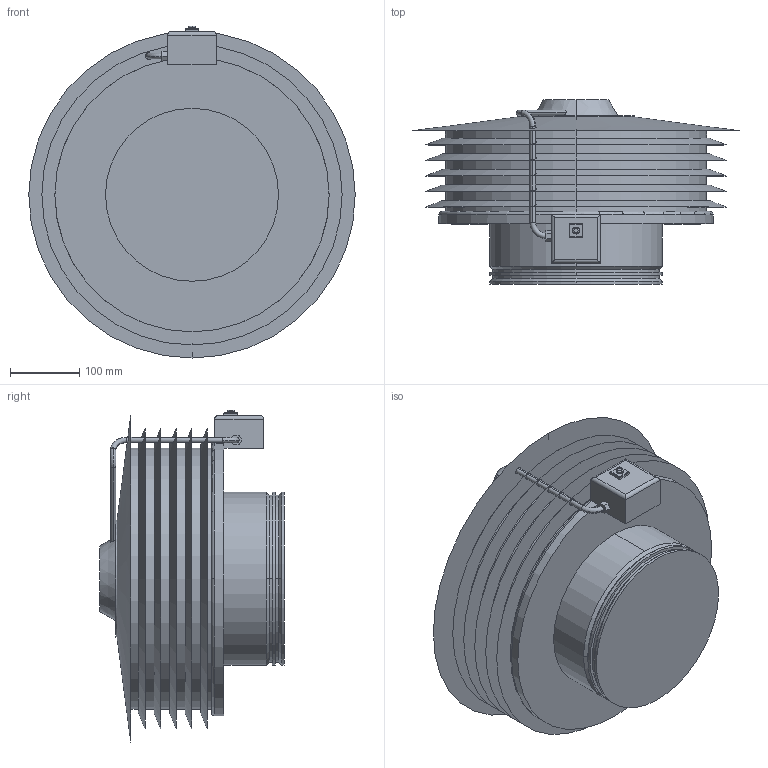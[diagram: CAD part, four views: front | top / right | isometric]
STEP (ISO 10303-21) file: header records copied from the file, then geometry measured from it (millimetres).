
FILE_DESCRIPTION(('STEP AP214'),'1');
FILE_NAME('fan_5136896400.stp','2017-03-31T18:13:21',('TraceParts'),('TraceParts S.A.'),'Spatial InterOp 3D',' ',' ');
FILE_SCHEMA(('automotive_design'));
Length unit declared in the file: millimetre
Products named in the file (1): fan_5136896400
Bounding box: 470 x 266 x 478 mm (x, y, z)
Volume: 22443617.6 mm3; surface area: 953072.5 mm2
Topology: 1 solids, 1 shells, 125 faces, 319 edges, 208 vertices
Faces by surface type: cylinder 48, plane 44, cone 18, torus 11, sphere 4
Entity records: 6418 total; most frequent: CARTESIAN_POINT 2401, DIRECTION 671, ORIENTED_EDGE 626, EDGE_CURVE 313, AXIS2_PLACEMENT_3D 273, VERTEX_POINT 208, EDGE_LOOP 157, CIRCLE 143
